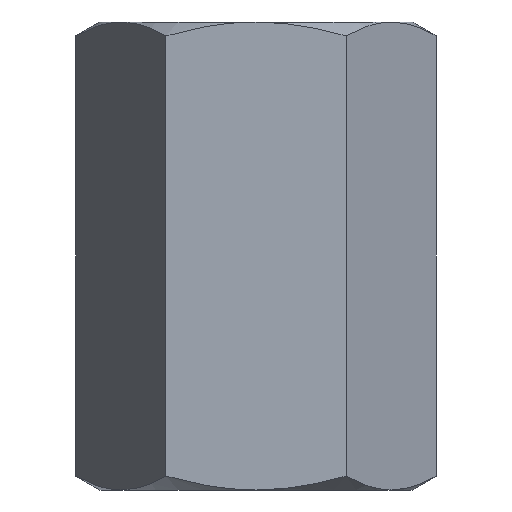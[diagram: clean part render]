
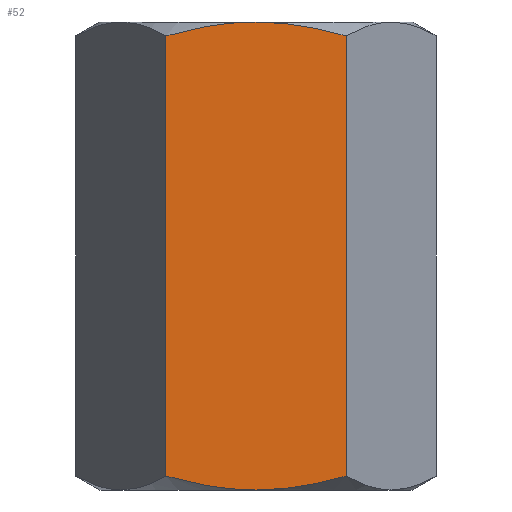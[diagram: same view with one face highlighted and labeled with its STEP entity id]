
A CAD part, front view. The second image highlights one B-rep face of the part: STEP entity #52.
In plain terms, the highlighted planar face has unit normal (0, -1, 0).
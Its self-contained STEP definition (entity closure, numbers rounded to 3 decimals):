
#23 = CARTESIAN_POINT ( 'NONE',  ( 0.39, -4., -6. ) ) ;
#36 = CARTESIAN_POINT ( 'NONE',  ( -0.779, -4., 5.966 ) ) ;
#38 = LINE ( 'NONE', #792, #417 ) ;
#52 = ADVANCED_FACE ( 'NONE', ( #745 ), #483, .T. ) ;
#54 = CARTESIAN_POINT ( 'NONE',  ( 0., -4., -6. ) ) ;
#65 = VERTEX_POINT ( 'NONE', #90 ) ;
#81 = CARTESIAN_POINT ( 'NONE',  ( -2.309, -4., -6. ) ) ;
#90 = CARTESIAN_POINT ( 'NONE',  ( 0., -4., 6. ) ) ;
#112 = B_SPLINE_CURVE_WITH_KNOTS ( 'NONE', 3,
 ( #436, #23, #643, #691, #290, #286 ),
 .UNSPECIFIED., .F., .F.,
 ( 4, 2, 4 ),
 ( 0.01, 0.011, 0.012 ),
 .UNSPECIFIED. ) ;
#118 = EDGE_CURVE ( 'NONE', #153, #450, #112, .T. ) ;
#120 = CARTESIAN_POINT ( 'NONE',  ( 2.309, -4., 5.643 ) ) ;
#122 = EDGE_LOOP ( 'NONE', ( #592, #505, #336, #189, #478, #525 ) ) ;
#129 = CARTESIAN_POINT ( 'NONE',  ( 2.309, -4., -5.643 ) ) ;
#132 = CARTESIAN_POINT ( 'NONE',  ( -0.388, -4., -6. ) ) ;
#147 = VERTEX_POINT ( 'NONE', #828 ) ;
#153 = VERTEX_POINT ( 'NONE', #570 ) ;
#168 = CARTESIAN_POINT ( 'NONE',  ( 0.787, -4., 5.965 ) ) ;
#175 = CARTESIAN_POINT ( 'NONE',  ( -1.548, -4., 5.842 ) ) ;
#189 = ORIENTED_EDGE ( 'NONE', *, *, #118, .T. ) ;
#193 = CARTESIAN_POINT ( 'NONE',  ( -1.556, -4., -5.841 ) ) ;
#202 = DIRECTION ( 'NONE',  ( 0., -1., 0. ) ) ;
#228 = CARTESIAN_POINT ( 'NONE',  ( -1.931, -4., 5.752 ) ) ;
#233 = CARTESIAN_POINT ( 'NONE',  ( 0.39, -4., 6. ) ) ;
#265 = CARTESIAN_POINT ( 'NONE',  ( -2.309, -4., -6. ) ) ;
#279 = LINE ( 'NONE', #81, #296 ) ;
#286 = CARTESIAN_POINT ( 'NONE',  ( 2.309, -4., -5.643 ) ) ;
#290 = CARTESIAN_POINT ( 'NONE',  ( 1.933, -4., -5.751 ) ) ;
#296 = VECTOR ( 'NONE', #361, 1000. ) ;
#298 = CARTESIAN_POINT ( 'NONE',  ( 1.558, -4., 5.84 ) ) ;
#304 = CARTESIAN_POINT ( 'NONE',  ( 0., -4., 6. ) ) ;
#310 = DIRECTION ( 'NONE',  ( 0., 0., 1. ) ) ;
#326 = CARTESIAN_POINT ( 'NONE',  ( -0.782, -4., -5.966 ) ) ;
#336 = ORIENTED_EDGE ( 'NONE', *, *, #480, .T. ) ;
#337 = B_SPLINE_CURVE_WITH_KNOTS ( 'NONE', 3,
 ( #841, #233, #168, #298, #582, #777 ),
 .UNSPECIFIED., .F., .F.,
 ( 4, 2, 4 ),
 ( 0.014, 0.015, 0.016 ),
 .UNSPECIFIED. ) ;
#361 = DIRECTION ( 'NONE',  ( 0., 0., 1. ) ) ;
#378 = B_SPLINE_CURVE_WITH_KNOTS ( 'NONE', 3,
 ( #576, #228, #175, #36, #848, #304 ),
 .UNSPECIFIED., .F., .F.,
 ( 4, 2, 4 ),
 ( 0.011, 0.013, 0.014 ),
 .UNSPECIFIED. ) ;
#417 = VECTOR ( 'NONE', #310, 1000. ) ;
#436 = CARTESIAN_POINT ( 'NONE',  ( 0., -4., -6. ) ) ;
#450 = VERTEX_POINT ( 'NONE', #129 ) ;
#466 = VERTEX_POINT ( 'NONE', #808 ) ;
#477 = CARTESIAN_POINT ( 'NONE',  ( -2.309, -4., -5.643 ) ) ;
#478 = ORIENTED_EDGE ( 'NONE', *, *, #872, .T. ) ;
#480 = EDGE_CURVE ( 'NONE', #147, #153, #870, .T. ) ;
#483 = PLANE ( 'NONE',  #707 ) ;
#505 = ORIENTED_EDGE ( 'NONE', *, *, #680, .F. ) ;
#525 = ORIENTED_EDGE ( 'NONE', *, *, #751, .F. ) ;
#570 = CARTESIAN_POINT ( 'NONE',  ( 0., -4., -6. ) ) ;
#576 = CARTESIAN_POINT ( 'NONE',  ( -2.309, -4., 5.643 ) ) ;
#582 = CARTESIAN_POINT ( 'NONE',  ( 1.936, -4., 5.751 ) ) ;
#592 = ORIENTED_EDGE ( 'NONE', *, *, #794, .F. ) ;
#643 = CARTESIAN_POINT ( 'NONE',  ( 0.777, -4., -5.967 ) ) ;
#680 = EDGE_CURVE ( 'NONE', #147, #466, #279, .T. ) ;
#691 = CARTESIAN_POINT ( 'NONE',  ( 1.547, -4., -5.842 ) ) ;
#707 = AXIS2_PLACEMENT_3D ( 'NONE', #265, #202, #750 ) ;
#735 = CARTESIAN_POINT ( 'NONE',  ( -1.935, -4., -5.751 ) ) ;
#745 = FACE_OUTER_BOUND ( 'NONE', #122, .T. ) ;
#750 = DIRECTION ( 'NONE',  ( 0., 0., -1. ) ) ;
#751 = EDGE_CURVE ( 'NONE', #65, #869, #337, .T. ) ;
#777 = CARTESIAN_POINT ( 'NONE',  ( 2.309, -4., 5.643 ) ) ;
#792 = CARTESIAN_POINT ( 'NONE',  ( 2.309, -4., -6. ) ) ;
#794 = EDGE_CURVE ( 'NONE', #466, #65, #378, .T. ) ;
#808 = CARTESIAN_POINT ( 'NONE',  ( -2.309, -4., 5.643 ) ) ;
#828 = CARTESIAN_POINT ( 'NONE',  ( -2.309, -4., -5.643 ) ) ;
#841 = CARTESIAN_POINT ( 'NONE',  ( 0., -4., 6. ) ) ;
#848 = CARTESIAN_POINT ( 'NONE',  ( -0.391, -4., 6. ) ) ;
#869 = VERTEX_POINT ( 'NONE', #120 ) ;
#870 = B_SPLINE_CURVE_WITH_KNOTS ( 'NONE', 3,
 ( #477, #735, #193, #326, #132, #54 ),
 .UNSPECIFIED., .F., .F.,
 ( 4, 2, 4 ),
 ( 0.008, 0.009, 0.01 ),
 .UNSPECIFIED. ) ;
#872 = EDGE_CURVE ( 'NONE', #450, #869, #38, .T. ) ;
